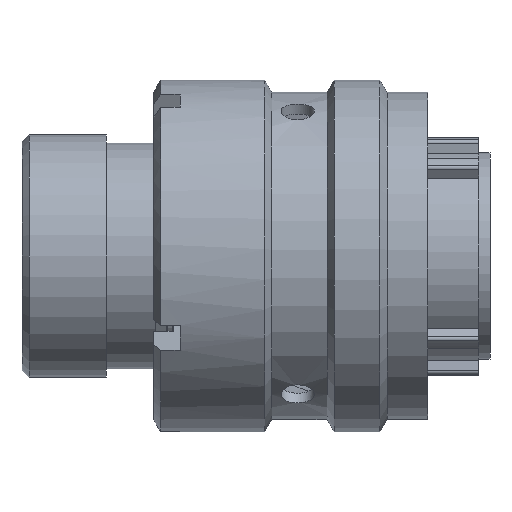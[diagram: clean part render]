
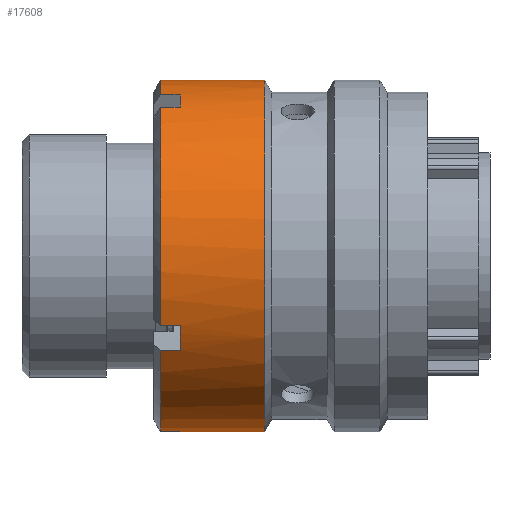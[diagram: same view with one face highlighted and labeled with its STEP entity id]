
A CAD part, front view. The second image highlights one B-rep face of the part: STEP entity #17608.
In plain terms, the highlighted cylindrical face has radius 12.55 mm (diameter 25.1 mm), a full revolution.
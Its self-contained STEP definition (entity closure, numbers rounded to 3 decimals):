
#3123=FACE_OUTER_BOUND('',#4223,.T.);
#4223=EDGE_LOOP('',(#13318,#13319,#13320,#13321,#13322,#13323,#13324,#13325,
#13326,#13327,#13328,#13329,#13330,#13331,#13332,#13333,#13334,#13335,#13336,
#13337,#13338));
#5068=LINE('',#29302,#5757);
#5069=LINE('',#29306,#5758);
#5070=LINE('',#29310,#5759);
#5071=LINE('',#29314,#5760);
#5072=LINE('',#29318,#5761);
#5073=LINE('',#29322,#5762);
#5074=LINE('',#29326,#5763);
#5075=LINE('',#29330,#5764);
#5076=LINE('',#29334,#5765);
#5757=VECTOR('',#22658,12.55);
#5758=VECTOR('',#22661,1000.);
#5759=VECTOR('',#22664,1000.);
#5760=VECTOR('',#22667,1000.);
#5761=VECTOR('',#22670,1000.);
#5762=VECTOR('',#22673,1000.);
#5763=VECTOR('',#22676,1000.);
#5764=VECTOR('',#22679,1000.);
#5765=VECTOR('',#22682,1000.);
#6935=CIRCLE('',#19260,12.55);
#6936=CIRCLE('',#19261,12.55);
#6943=CIRCLE('',#19270,12.55);
#6944=CIRCLE('',#19271,12.55);
#6945=CIRCLE('',#19272,12.55);
#6946=CIRCLE('',#19273,12.55);
#6947=CIRCLE('',#19274,12.55);
#6948=CIRCLE('',#19275,12.55);
#6949=CIRCLE('',#19276,12.55);
#6950=CIRCLE('',#19277,12.55);
#6951=CIRCLE('',#19278,12.55);
#7961=VERTEX_POINT('',#29269);
#7962=VERTEX_POINT('',#29270);
#7973=VERTEX_POINT('',#29301);
#7974=VERTEX_POINT('',#29303);
#7975=VERTEX_POINT('',#29305);
#7976=VERTEX_POINT('',#29307);
#7977=VERTEX_POINT('',#29309);
#7978=VERTEX_POINT('',#29311);
#7979=VERTEX_POINT('',#29313);
#7980=VERTEX_POINT('',#29315);
#7981=VERTEX_POINT('',#29317);
#7982=VERTEX_POINT('',#29319);
#7983=VERTEX_POINT('',#29321);
#7984=VERTEX_POINT('',#29323);
#7985=VERTEX_POINT('',#29325);
#7986=VERTEX_POINT('',#29327);
#7987=VERTEX_POINT('',#29329);
#7988=VERTEX_POINT('',#29331);
#7989=VERTEX_POINT('',#29333);
#9945=EDGE_CURVE('',#7961,#7962,#6935,.T.);
#9947=EDGE_CURVE('',#7962,#7961,#6936,.T.);
#9963=EDGE_CURVE('',#7961,#7973,#5068,.T.);
#9964=EDGE_CURVE('',#7973,#7974,#6943,.T.);
#9965=EDGE_CURVE('',#7974,#7975,#5069,.T.);
#9966=EDGE_CURVE('',#7975,#7976,#6944,.T.);
#9967=EDGE_CURVE('',#7976,#7977,#5070,.T.);
#9968=EDGE_CURVE('',#7977,#7978,#6945,.T.);
#9969=EDGE_CURVE('',#7978,#7979,#5071,.T.);
#9970=EDGE_CURVE('',#7979,#7980,#6946,.T.);
#9971=EDGE_CURVE('',#7980,#7981,#5072,.T.);
#9972=EDGE_CURVE('',#7981,#7982,#6947,.T.);
#9973=EDGE_CURVE('',#7982,#7983,#5073,.T.);
#9974=EDGE_CURVE('',#7983,#7984,#6948,.T.);
#9975=EDGE_CURVE('',#7984,#7985,#5074,.T.);
#9976=EDGE_CURVE('',#7985,#7986,#6949,.T.);
#9977=EDGE_CURVE('',#7986,#7987,#5075,.T.);
#9978=EDGE_CURVE('',#7987,#7988,#6950,.T.);
#9979=EDGE_CURVE('',#7988,#7989,#5076,.T.);
#9980=EDGE_CURVE('',#7989,#7973,#6951,.T.);
#13318=ORIENTED_EDGE('',*,*,#9945,.F.);
#13319=ORIENTED_EDGE('',*,*,#9963,.T.);
#13320=ORIENTED_EDGE('',*,*,#9964,.T.);
#13321=ORIENTED_EDGE('',*,*,#9965,.T.);
#13322=ORIENTED_EDGE('',*,*,#9966,.T.);
#13323=ORIENTED_EDGE('',*,*,#9967,.T.);
#13324=ORIENTED_EDGE('',*,*,#9968,.T.);
#13325=ORIENTED_EDGE('',*,*,#9969,.T.);
#13326=ORIENTED_EDGE('',*,*,#9970,.T.);
#13327=ORIENTED_EDGE('',*,*,#9971,.T.);
#13328=ORIENTED_EDGE('',*,*,#9972,.T.);
#13329=ORIENTED_EDGE('',*,*,#9973,.T.);
#13330=ORIENTED_EDGE('',*,*,#9974,.T.);
#13331=ORIENTED_EDGE('',*,*,#9975,.T.);
#13332=ORIENTED_EDGE('',*,*,#9976,.T.);
#13333=ORIENTED_EDGE('',*,*,#9977,.T.);
#13334=ORIENTED_EDGE('',*,*,#9978,.T.);
#13335=ORIENTED_EDGE('',*,*,#9979,.T.);
#13336=ORIENTED_EDGE('',*,*,#9980,.T.);
#13337=ORIENTED_EDGE('',*,*,#9963,.F.);
#13338=ORIENTED_EDGE('',*,*,#9947,.F.);
#17036=CYLINDRICAL_SURFACE('',#19269,12.55);
#17608=ADVANCED_FACE('',(#3123),#17036,.T.);
#19260=AXIS2_PLACEMENT_3D('',#29271,#22628,#22629);
#19261=AXIS2_PLACEMENT_3D('',#29273,#22631,#22632);
#19269=AXIS2_PLACEMENT_3D('',#29300,#22656,#22657);
#19270=AXIS2_PLACEMENT_3D('',#29304,#22659,#22660);
#19271=AXIS2_PLACEMENT_3D('',#29308,#22662,#22663);
#19272=AXIS2_PLACEMENT_3D('',#29312,#22665,#22666);
#19273=AXIS2_PLACEMENT_3D('',#29316,#22668,#22669);
#19274=AXIS2_PLACEMENT_3D('',#29320,#22671,#22672);
#19275=AXIS2_PLACEMENT_3D('',#29324,#22674,#22675);
#19276=AXIS2_PLACEMENT_3D('',#29328,#22677,#22678);
#19277=AXIS2_PLACEMENT_3D('',#29332,#22680,#22681);
#19278=AXIS2_PLACEMENT_3D('',#29335,#22683,#22684);
#22628=DIRECTION('center_axis',(1.,0.,0.));
#22629=DIRECTION('ref_axis',(0.,0.466,-0.885));
#22631=DIRECTION('center_axis',(1.,0.,0.));
#22632=DIRECTION('ref_axis',(0.,0.466,-0.885));
#22656=DIRECTION('center_axis',(1.,0.,0.));
#22657=DIRECTION('ref_axis',(0.,0.466,-0.885));
#22658=DIRECTION('',(-1.,0.,0.));
#22659=DIRECTION('center_axis',(1.,0.,0.));
#22660=DIRECTION('ref_axis',(0.,-0.885,-0.466));
#22661=DIRECTION('',(-1.,0.,0.));
#22662=DIRECTION('center_axis',(1.,0.,0.));
#22663=DIRECTION('ref_axis',(0.,0.466,-0.885));
#22664=DIRECTION('',(1.,0.,0.));
#22665=DIRECTION('center_axis',(1.,0.,0.));
#22666=DIRECTION('ref_axis',(0.,0.466,-0.885));
#22667=DIRECTION('',(-1.,0.,0.));
#22668=DIRECTION('center_axis',(1.,0.,0.));
#22669=DIRECTION('ref_axis',(0.,0.466,-0.885));
#22670=DIRECTION('',(1.,0.,0.));
#22671=DIRECTION('center_axis',(1.,0.,0.));
#22672=DIRECTION('ref_axis',(0.,0.885,0.466));
#22673=DIRECTION('',(-1.,0.,0.));
#22674=DIRECTION('center_axis',(1.,0.,0.));
#22675=DIRECTION('ref_axis',(0.,0.466,-0.885));
#22676=DIRECTION('',(1.,0.,0.));
#22677=DIRECTION('center_axis',(1.,0.,0.));
#22678=DIRECTION('ref_axis',(0.,-0.466,0.885));
#22679=DIRECTION('',(-1.,0.,0.));
#22680=DIRECTION('center_axis',(1.,0.,0.));
#22681=DIRECTION('ref_axis',(0.,0.466,-0.885));
#22682=DIRECTION('',(1.,0.,0.));
#22683=DIRECTION('center_axis',(1.,0.,0.));
#22684=DIRECTION('ref_axis',(0.,-0.885,-0.466));
#29269=CARTESIAN_POINT('',(17.298,-5.849,11.103));
#29270=CARTESIAN_POINT('',(17.298,5.849,-11.103));
#29271=CARTESIAN_POINT('Origin',(17.298,0.,
0.));
#29273=CARTESIAN_POINT('Origin',(17.298,0.,
0.));
#29300=CARTESIAN_POINT('Origin',(28.928,0.,0.));
#29301=CARTESIAN_POINT('',(11.278,-5.849,11.103));
#29302=CARTESIAN_POINT('',(28.928,-5.849,11.103));
#29303=CARTESIAN_POINT('',(11.278,-6.716,10.602));
#29304=CARTESIAN_POINT('Origin',(11.278,0.,0.));
#29305=CARTESIAN_POINT('',(9.878,-6.716,10.602));
#29306=CARTESIAN_POINT('',(28.928,-6.716,10.602));
#29307=CARTESIAN_POINT('',(9.878,-11.534,-4.946));
#29308=CARTESIAN_POINT('Origin',(9.878,0.,0.));
#29309=CARTESIAN_POINT('',(11.278,-11.534,-4.946));
#29310=CARTESIAN_POINT('',(28.928,-11.534,-4.946));
#29311=CARTESIAN_POINT('',(11.278,-10.602,-6.716));
#29312=CARTESIAN_POINT('Origin',(11.278,0.,0.));
#29313=CARTESIAN_POINT('',(9.878,-10.602,-6.716));
#29314=CARTESIAN_POINT('',(28.928,-10.602,-6.716));
#29315=CARTESIAN_POINT('',(9.878,4.946,-11.534));
#29316=CARTESIAN_POINT('Origin',(9.878,0.,0.));
#29317=CARTESIAN_POINT('',(11.278,4.946,-11.534));
#29318=CARTESIAN_POINT('',(28.928,4.946,-11.534));
#29319=CARTESIAN_POINT('',(11.278,6.716,-10.602));
#29320=CARTESIAN_POINT('Origin',(11.278,0.,0.));
#29321=CARTESIAN_POINT('',(9.878,6.716,-10.602));
#29322=CARTESIAN_POINT('',(28.928,6.716,-10.602));
#29323=CARTESIAN_POINT('',(9.878,11.534,4.946));
#29324=CARTESIAN_POINT('Origin',(9.878,0.,0.));
#29325=CARTESIAN_POINT('',(11.278,11.534,4.946));
#29326=CARTESIAN_POINT('',(28.928,11.534,4.946));
#29327=CARTESIAN_POINT('',(11.278,10.602,6.716));
#29328=CARTESIAN_POINT('Origin',(11.278,0.,0.));
#29329=CARTESIAN_POINT('',(9.878,10.602,6.716));
#29330=CARTESIAN_POINT('',(28.928,10.602,6.716));
#29331=CARTESIAN_POINT('',(9.878,-4.946,11.534));
#29332=CARTESIAN_POINT('Origin',(9.878,0.,0.));
#29333=CARTESIAN_POINT('',(11.278,-4.946,11.534));
#29334=CARTESIAN_POINT('',(28.928,-4.946,11.534));
#29335=CARTESIAN_POINT('Origin',(11.278,0.,0.));
